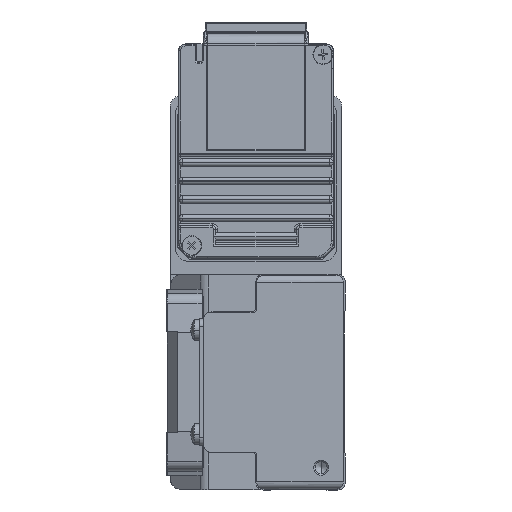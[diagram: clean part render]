
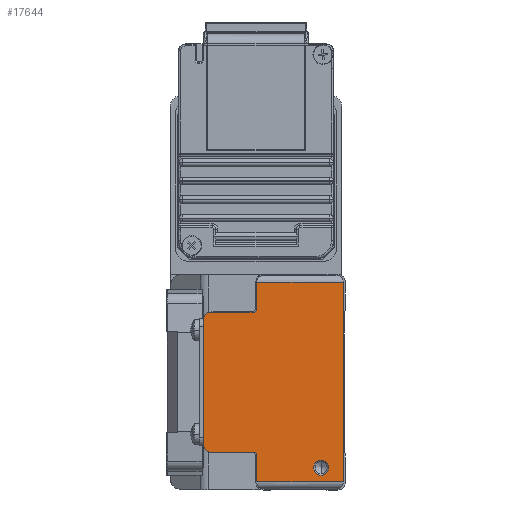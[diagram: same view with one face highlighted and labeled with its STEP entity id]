
A CAD part, left-side view. The second image highlights one B-rep face of the part: STEP entity #17644.
In plain terms, the highlighted planar face has unit normal (-1, 0, 0) as drawn and (0, 0, 1) by its records, which use the part's own axes.
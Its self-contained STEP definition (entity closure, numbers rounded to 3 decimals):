
#358 = CARTESIAN_POINT ( 'NONE',  ( -26.8, 23.8, 870. ) ) ;
#457 = CIRCLE ( 'NONE', #10885, 1. ) ;
#715 = DIRECTION ( 'NONE',  ( 0., 0., 1. ) ) ;
#757 = CARTESIAN_POINT ( 'NONE',  ( 18.8, 36.5, 870. ) ) ;
#1481 = LINE ( 'NONE', #5185, #9876 ) ;
#1672 = ORIENTED_EDGE ( 'NONE', *, *, #26165, .T. ) ;
#1853 = CARTESIAN_POINT ( 'NONE',  ( 26.8, 23.8, 870. ) ) ;
#2205 = EDGE_CURVE ( 'NONE', #10406, #11499, #41856, .T. ) ;
#2675 = CARTESIAN_POINT ( 'NONE',  ( 26.8, 23.8, 870. ) ) ;
#2906 = EDGE_CURVE ( 'NONE', #42789, #16871, #1481, .T. ) ;
#3050 = VERTEX_POINT ( 'NONE', #43751 ) ;
#3095 = VERTEX_POINT ( 'NONE', #18772 ) ;
#3739 = VERTEX_POINT ( 'NONE', #1853 ) ;
#3994 = DIRECTION ( 'NONE',  ( 0., 0., 1. ) ) ;
#4779 = VERTEX_POINT ( 'NONE', #358 ) ;
#5020 = AXIS2_PLACEMENT_3D ( 'NONE', #40407, #8733, #36966 ) ;
#5116 = DIRECTION ( 'NONE',  ( 0., 0., -1. ) ) ;
#5185 = CARTESIAN_POINT ( 'NONE',  ( -26.8, 0.5, 870. ) ) ;
#5336 = EDGE_CURVE ( 'NONE', #3050, #45014, #38317, .T. ) ;
#5504 = LINE ( 'NONE', #12749, #11279 ) ;
#5980 = CARTESIAN_POINT ( 'NONE',  ( 26.8, 24., 870. ) ) ;
#6094 = EDGE_CURVE ( 'NONE', #3095, #8793, #35909, .T. ) ;
#6125 = DIRECTION ( 'NONE',  ( 0., 0., 1. ) ) ;
#6705 = LINE ( 'NONE', #34692, #23906 ) ;
#7617 = AXIS2_PLACEMENT_3D ( 'NONE', #37393, #6125, #44509 ) ;
#7833 = DIRECTION ( 'NONE',  ( -1., 0., 0. ) ) ;
#8733 = DIRECTION ( 'NONE',  ( 0., 0., 1. ) ) ;
#8793 = VERTEX_POINT ( 'NONE', #27699 ) ;
#9236 = ORIENTED_EDGE ( 'NONE', *, *, #11742, .F. ) ;
#9876 = VECTOR ( 'NONE', #32492, 1000. ) ;
#10230 = ORIENTED_EDGE ( 'NONE', *, *, #43839, .F. ) ;
#10245 = DIRECTION ( 'NONE',  ( 0., 1., 0. ) ) ;
#10260 = DIRECTION ( 'NONE',  ( 0., 0., -1. ) ) ;
#10406 = VERTEX_POINT ( 'NONE', #23256 ) ;
#10483 = DIRECTION ( 'NONE',  ( -1., 0., 0. ) ) ;
#10885 = AXIS2_PLACEMENT_3D ( 'NONE', #31089, #3994, #36399 ) ;
#11152 = CARTESIAN_POINT ( 'NONE',  ( -26.8, 0.5, 870. ) ) ;
#11279 = VECTOR ( 'NONE', #26797, 1000. ) ;
#11340 = EDGE_CURVE ( 'NONE', #31084, #31158, #5504, .T. ) ;
#11499 = VERTEX_POINT ( 'NONE', #36244 ) ;
#11742 = EDGE_CURVE ( 'NONE', #3739, #16871, #37694, .T. ) ;
#11810 = CARTESIAN_POINT ( 'NONE',  ( -19.8, 23.8, 870. ) ) ;
#11887 = DIRECTION ( 'NONE',  ( -1., 0., 0. ) ) ;
#12352 = CARTESIAN_POINT ( 'NONE',  ( -23., 6.5, 870. ) ) ;
#12415 = CARTESIAN_POINT ( 'NONE',  ( 17.3, 38., 870. ) ) ;
#12749 = CARTESIAN_POINT ( 'NONE',  ( -18.8, 36.5, 870. ) ) ;
#12856 = EDGE_CURVE ( 'NONE', #17199, #4779, #43419, .T. ) ;
#13411 = VECTOR ( 'NONE', #24653, 1000. ) ;
#13510 = CARTESIAN_POINT ( 'NONE',  ( -23., 6.5, 870. ) ) ;
#13592 = CARTESIAN_POINT ( 'NONE',  ( -18.8, 36.5, 870. ) ) ;
#13852 = CARTESIAN_POINT ( 'NONE',  ( 26.8, 0.5, 870. ) ) ;
#13915 = DIRECTION ( 'NONE',  ( -1., 0., 0. ) ) ;
#14134 = CARTESIAN_POINT ( 'NONE',  ( -19.8, 23.8, 870. ) ) ;
#15403 = CIRCLE ( 'NONE', #5020, 1.5 ) ;
#15760 = VECTOR ( 'NONE', #13915, 1000. ) ;
#16558 = FACE_OUTER_BOUND ( 'NONE', #33960, .T. ) ;
#16627 = CIRCLE ( 'NONE', #17452, 2. ) ;
#16871 = VERTEX_POINT ( 'NONE', #13852 ) ;
#17199 = VERTEX_POINT ( 'NONE', #14134 ) ;
#17452 = AXIS2_PLACEMENT_3D ( 'NONE', #13510, #10260, #10483 ) ;
#17644 = ADVANCED_FACE ( 'NONE', ( #45186, #16558 ), #27416, .T. ) ;
#18219 = EDGE_LOOP ( 'NONE', ( #20845, #44592 ) ) ;
#18458 = VECTOR ( 'NONE', #7833, 1000. ) ;
#18772 = CARTESIAN_POINT ( 'NONE',  ( 18.8, 24.8, 870. ) ) ;
#20436 = ORIENTED_EDGE ( 'NONE', *, *, #12856, .T. ) ;
#20845 = ORIENTED_EDGE ( 'NONE', *, *, #5336, .T. ) ;
#21121 = AXIS2_PLACEMENT_3D ( 'NONE', #38670, #715, #39362 ) ;
#21410 = CARTESIAN_POINT ( 'NONE',  ( -18.8, 24.8, 870. ) ) ;
#23256 = CARTESIAN_POINT ( 'NONE',  ( 17.3, 38., 870. ) ) ;
#23906 = VECTOR ( 'NONE', #38149, 1000. ) ;
#24653 = DIRECTION ( 'NONE',  ( -1., 0., 0. ) ) ;
#25297 = CARTESIAN_POINT ( 'NONE',  ( -17.3, 36.5, 870. ) ) ;
#25438 = ORIENTED_EDGE ( 'NONE', *, *, #2205, .T. ) ;
#25687 = CARTESIAN_POINT ( 'NONE',  ( -21., 6.5, 870. ) ) ;
#26143 = ORIENTED_EDGE ( 'NONE', *, *, #36046, .T. ) ;
#26165 = EDGE_CURVE ( 'NONE', #28530, #10406, #15403, .T. ) ;
#26577 = EDGE_CURVE ( 'NONE', #45014, #3050, #16627, .T. ) ;
#26797 = DIRECTION ( 'NONE',  ( 0., -1., 0. ) ) ;
#27416 = PLANE ( 'NONE',  #7617 ) ;
#27699 = CARTESIAN_POINT ( 'NONE',  ( 19.8, 23.8, 870. ) ) ;
#27806 = LINE ( 'NONE', #45589, #32308 ) ;
#28530 = VERTEX_POINT ( 'NONE', #757 ) ;
#31084 = VERTEX_POINT ( 'NONE', #13592 ) ;
#31089 = CARTESIAN_POINT ( 'NONE',  ( -19.8, 24.8, 870. ) ) ;
#31138 = LINE ( 'NONE', #2675, #13411 ) ;
#31158 = VERTEX_POINT ( 'NONE', #21410 ) ;
#31205 = EDGE_CURVE ( 'NONE', #3739, #8793, #31138, .T. ) ;
#32308 = VECTOR ( 'NONE', #10245, 1000. ) ;
#32492 = DIRECTION ( 'NONE',  ( 1., 0., 0. ) ) ;
#32607 = EDGE_CURVE ( 'NONE', #4779, #42789, #6705, .T. ) ;
#33960 = EDGE_LOOP ( 'NONE', ( #38878, #10230, #20436, #37649, #45757, #9236, #34453, #34491, #26143, #1672, #25438, #38366 ) ) ;
#34453 = ORIENTED_EDGE ( 'NONE', *, *, #31205, .T. ) ;
#34491 = ORIENTED_EDGE ( 'NONE', *, *, #6094, .F. ) ;
#34623 = AXIS2_PLACEMENT_3D ( 'NONE', #12352, #5116, #11887 ) ;
#34692 = CARTESIAN_POINT ( 'NONE',  ( -26.8, 24., 870. ) ) ;
#35827 = EDGE_CURVE ( 'NONE', #11499, #31084, #43466, .T. ) ;
#35909 = CIRCLE ( 'NONE', #21121, 1. ) ;
#36046 = EDGE_CURVE ( 'NONE', #3095, #28530, #27806, .T. ) ;
#36102 = VECTOR ( 'NONE', #37050, 1000. ) ;
#36244 = CARTESIAN_POINT ( 'NONE',  ( -17.3, 38., 870. ) ) ;
#36399 = DIRECTION ( 'NONE',  ( 1., 0., 0. ) ) ;
#36880 = AXIS2_PLACEMENT_3D ( 'NONE', #25297, #39640, #43565 ) ;
#36966 = DIRECTION ( 'NONE',  ( 1., 0., 0. ) ) ;
#37050 = DIRECTION ( 'NONE',  ( 0., -1., 0. ) ) ;
#37393 = CARTESIAN_POINT ( 'NONE',  ( -26.8, 21.8, 870. ) ) ;
#37649 = ORIENTED_EDGE ( 'NONE', *, *, #32607, .T. ) ;
#37694 = LINE ( 'NONE', #5980, #36102 ) ;
#38149 = DIRECTION ( 'NONE',  ( 0., -1., 0. ) ) ;
#38317 = CIRCLE ( 'NONE', #34623, 2. ) ;
#38366 = ORIENTED_EDGE ( 'NONE', *, *, #35827, .T. ) ;
#38670 = CARTESIAN_POINT ( 'NONE',  ( 19.8, 24.8, 870. ) ) ;
#38878 = ORIENTED_EDGE ( 'NONE', *, *, #11340, .T. ) ;
#39362 = DIRECTION ( 'NONE',  ( 1., 0., 0. ) ) ;
#39640 = DIRECTION ( 'NONE',  ( 0., 0., 1. ) ) ;
#40407 = CARTESIAN_POINT ( 'NONE',  ( 17.3, 36.5, 870. ) ) ;
#41856 = LINE ( 'NONE', #12415, #15760 ) ;
#42789 = VERTEX_POINT ( 'NONE', #11152 ) ;
#43419 = LINE ( 'NONE', #11810, #18458 ) ;
#43466 = CIRCLE ( 'NONE', #36880, 1.5 ) ;
#43565 = DIRECTION ( 'NONE',  ( 1., 0., 0. ) ) ;
#43751 = CARTESIAN_POINT ( 'NONE',  ( -25., 6.5, 870. ) ) ;
#43839 = EDGE_CURVE ( 'NONE', #17199, #31158, #457, .T. ) ;
#44509 = DIRECTION ( 'NONE',  ( 1., 0., 0. ) ) ;
#44592 = ORIENTED_EDGE ( 'NONE', *, *, #26577, .T. ) ;
#45014 = VERTEX_POINT ( 'NONE', #25687 ) ;
#45186 = FACE_BOUND ( 'NONE', #18219, .T. ) ;
#45589 = CARTESIAN_POINT ( 'NONE',  ( 18.8, 24.8, 870. ) ) ;
#45757 = ORIENTED_EDGE ( 'NONE', *, *, #2906, .T. ) ;
